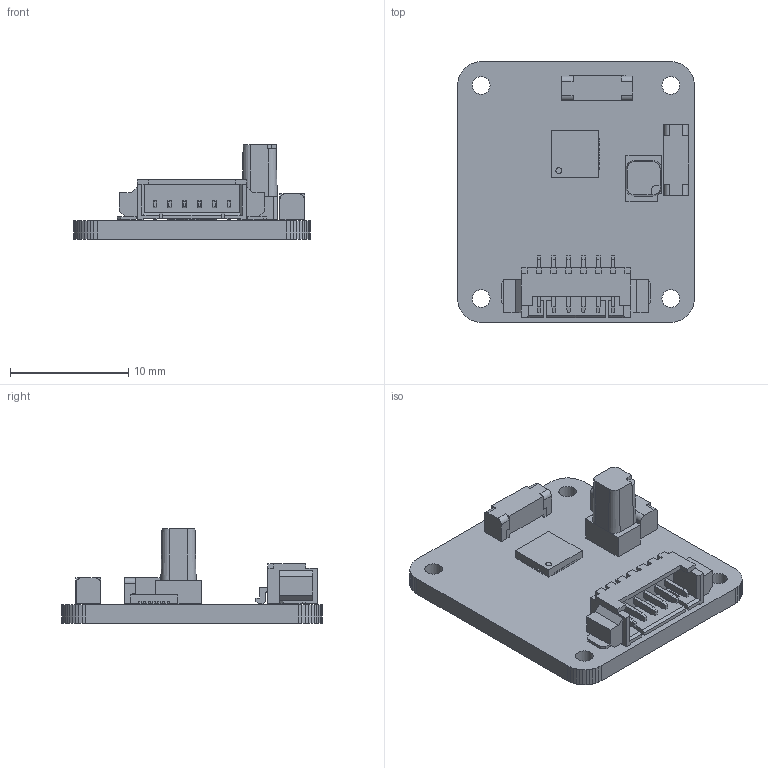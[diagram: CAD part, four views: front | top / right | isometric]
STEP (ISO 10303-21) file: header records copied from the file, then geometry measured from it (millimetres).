
FILE_DESCRIPTION(/* description */ ('Unknown'),/* implementation_level */ '2;1');
FILE_NAME(/* name */ 'SM-LOD-AS-0020_1.0_Lodestone NEO V1a Assembly LD',/* time_stamp */ '2025-08-10T10:25:35+02:00',/* author */ ('Unknown'),/* organization */ ('Unknown'),/* preprocessor_version */ 'ST-DEVELOPER v20',/* originating_system */ 'Solid Edge',/* authorisation */ 'Unknown');
FILE_SCHEMA (('AUTOMOTIVE_DESIGN {1 0 10303 214 3 1 1}'));
Length unit declared in the file: millimetre
Products named in the file (10): SM_Lodestone_neo_V1a_LD; RM3100_xy_coil; SOLID_2; Molex_PicoBlade_53261-0671_1x06-1MP_P1.25mm_Horizontal; SOLID_4; QFN-28-1EP_4x4mm_P0.4mm_EP2.4x2.4mm; SOLID_5; RM3100_z_coil; SOLID_6; PCB
Assembly tree (10 placements, depth 3):
  SM_Lodestone_neo_V1a_LD
    RM3100_xy_coil  x2
      SOLID_2
    Molex_PicoBlade_53261-0671_1x06-1MP_P1.25mm_Horizontal
      SOLID_4
    QFN-28-1EP_4x4mm_P0.4mm_EP2.4x2.4mm
      SOLID_5
    RM3100_z_coil
      SOLID_6
    PCB
Bounding box: 20 x 22 x 7.98 mm (x, y, z)
Volume: 882.4 mm3; surface area: 1562.8 mm2
Topology: 6 solids, 6 shells, 557 faces, 1545 edges, 1018 vertices
Faces by surface type: plane 494, cylinder 59, cone 4
Full cylindrical faces by diameter (mm): 0.5 x1, 1.5 x4
Entity records: 18195 total; most frequent: CARTESIAN_POINT 2944, ORIENTED_EDGE 2900, DIRECTION 2638, EDGE_CURVE 1450, LINE 1334, VECTOR 1334, VERTEX_POINT 958, AXIS2_PLACEMENT_3D 652
